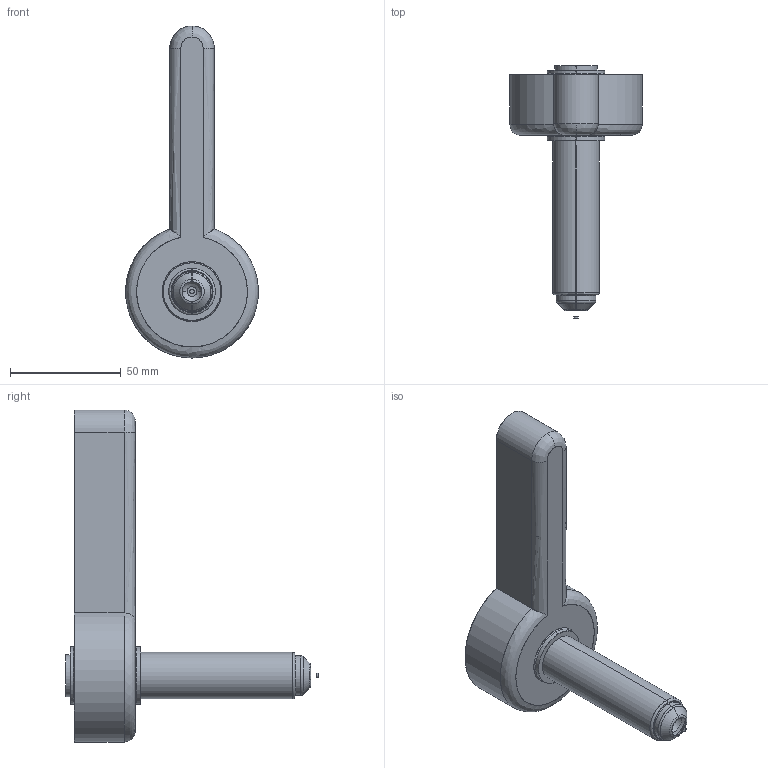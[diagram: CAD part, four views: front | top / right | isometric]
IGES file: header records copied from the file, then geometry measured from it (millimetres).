
Start section: SolidWorks IGES file using analytic representation for surfaces
Global section: file name: C:\Documents and Settings\ws-20\Desktop\TEM\Sede UGER2503-S-A C-80 L-112 Ød-2.0.IGS; native system: SolidWorks 2012; preprocessor: SolidWorks 2012; author: ws-20; date: 120405.111728; units: millimetre
Bounding box: 60 x 114.2 x 150 mm (x, y, z)
Surface area: 24826.4 mm2 (no closed solid volume)
Topology: 0 solids, 0 shells, 47 faces, 734 edges, 734 vertices
Faces by surface type: revolution 27, bspline 20
